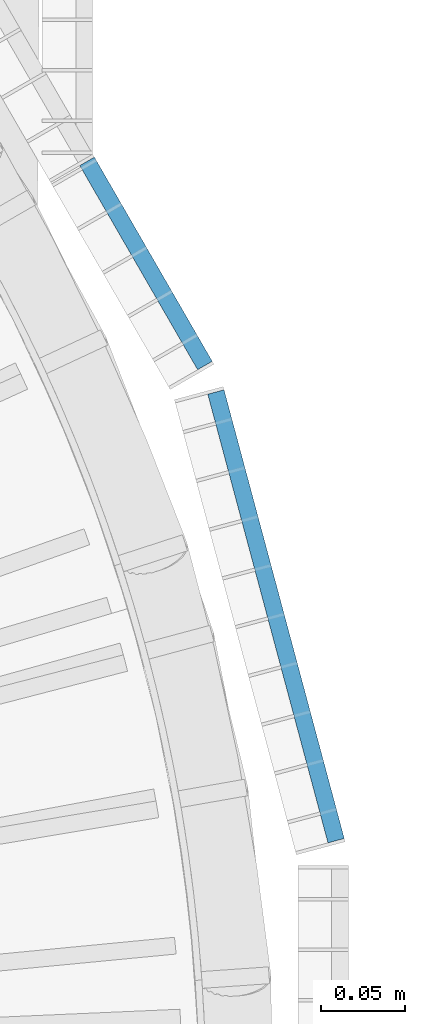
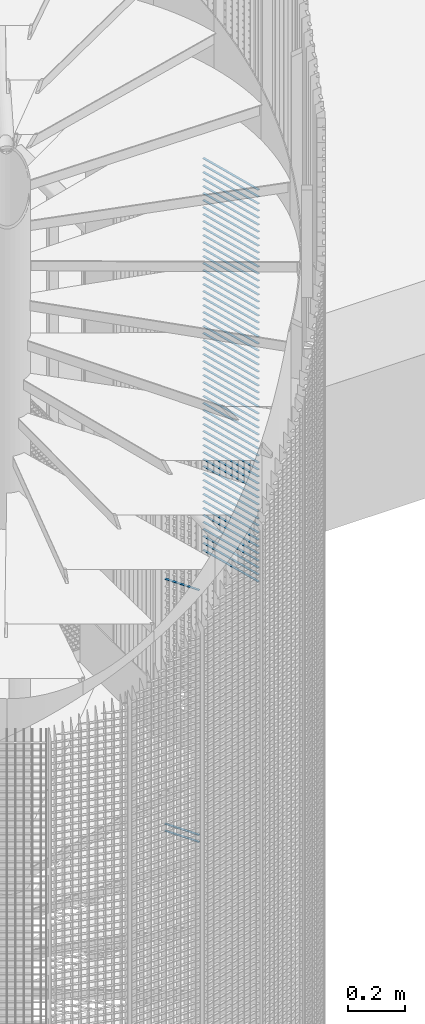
# One storey, part 282 of 1148: 60 beams, 2 elements without a shape of their own.
"""IFC2X3 building model written with IfcOpenShell, lengths in millimetres."""

from ifc_helpers import new_model, si_unit, frame, origin_with_axes, origin_2d_with_axis, place, context, subcontext, project, spatial, rectangle, extrude, material, type_object, element, aggregate, save


model = new_model("IFC2X3")

# Units and contexts
model_context = context("Model", 3, precision=1e-05, world=origin_with_axes())
body_context = subcontext(model_context, "Body", "Model", "MODEL_VIEW")
ifc_project = project(units=[si_unit("LENGTHUNIT", "METRE", prefix="MILLI"), si_unit("AREAUNIT", "SQUARE_METRE"), si_unit("VOLUMEUNIT", "CUBIC_METRE"), si_unit("MASSUNIT", "GRAM", prefix="KILO"), si_unit("TIMEUNIT", "SECOND"), si_unit("PLANEANGLEUNIT", "RADIAN"), si_unit("SOLIDANGLEUNIT", "STERADIAN"), si_unit("THERMODYNAMICTEMPERATUREUNIT", "DEGREE_CELSIUS"), si_unit("LUMINOUSINTENSITYUNIT", "LUMEN")], contexts=[model_context])

# Site, building, storey
site_placement = place(None, origin_with_axes())
site = spatial("IfcSite", under=ifc_project, at=site_placement, Name="Undefined", CompositionType="ELEMENT")
building_placement = place(site_placement, origin_with_axes())
building = spatial("IfcBuilding", under=site, at=building_placement, Name="Undefined", CompositionType="ELEMENT")
storey_placement = place(building_placement, origin_with_axes())
storey = spatial("IfcBuildingStorey", under=building, at=storey_placement, Name="Undefined", CompositionType="ELEMENT", Elevation=0.0)

# Assembly, beams
assembly_1_placement = place(storey_placement, origin_with_axes())
assembly_1 = element("IfcElementAssembly", 1, at=assembly_1_placement, inside=storey, Name="BORDURE", AssemblyPlace="NOTDEFINED", PredefinedType="NOTDEFINED")
ifc_material = material(Name="STEEL/S235JR")
beam_type = type_object("IfcBeamType", Name="PL2*10", PredefinedType="NOTDEFINED")
beam_1_placement = place(assembly_1_placement, frame((1033.2999428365, 437.231999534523, 6060.0), z_axis=(0.866030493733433, 0.499991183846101, 0.0), x_axis=(-0.499991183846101, 0.866030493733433, 0.0)))
beam_1 = element("IfcBeam", 2, at=beam_1_placement, type_object=beam_type, material=ifc_material, Name="ENTRETOISE", context=body_context, shape_type="SweptSolid", body=[
    extrude(rectangle(XDim=2.0, YDim=10.0, at=origin_2d_with_axis()), frame((140.102470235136, 0.0, 0.0), z_axis=(-1.0, 0.0, 0.0), x_axis=(0.0, -1.0, 0.0)), (0.0, 0.0, 1.0), 140.1),
])
beam_2_placement = place(assembly_1_placement, frame((1033.29994283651, 437.23199953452, 7110.0), z_axis=(0.866030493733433, 0.499991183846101, 0.0), x_axis=(-0.499991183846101, 0.866030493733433, 0.0)))
beam_2 = element("IfcBeam", 3, at=beam_2_placement, type_object=beam_type, material=ifc_material, Name="ENTRETOISE", context=body_context, shape_type="SweptSolid", body=[
    extrude(rectangle(XDim=2.0, YDim=10.0, at=origin_2d_with_axis()), frame((140.102470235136, 0.0, 0.0), z_axis=(-1.0, 0.0, 0.0), x_axis=(0.0, -1.0, 0.0)), (0.0, 0.0, 1.0), 140.1),
])
beam_3_placement = place(assembly_1_placement, frame((1033.2999428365, 437.231999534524, 6030.0), z_axis=(0.866030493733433, 0.499991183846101, 0.0), x_axis=(-0.499991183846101, 0.866030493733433, 0.0)))
beam_3 = element("IfcBeam", 4, at=beam_3_placement, type_object=beam_type, material=ifc_material, Name="ENTRETOISE", context=body_context, shape_type="SweptSolid", body=[
    extrude(rectangle(XDim=2.0, YDim=10.0, at=origin_2d_with_axis()), frame((140.102470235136, 0.0, 0.0), z_axis=(-1.0, 0.0, 0.0), x_axis=(0.0, -1.0, 0.0)), (0.0, 0.0, 1.0), 140.1),
])
aggregate(assembly_1, [beam_1, beam_2, beam_3])

assembly_2_placement = place(storey_placement, origin_with_axes())
assembly_2 = element("IfcElementAssembly", 5, at=assembly_2_placement, inside=storey, Name="BORDURE", AssemblyPlace="NOTDEFINED", PredefinedType="NOTDEFINED")
beam_4_placement = place(assembly_2_placement, frame((1111.25508286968, 154.895926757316, 8970.0), z_axis=(0.965925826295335, 0.258819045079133, 0.0), x_axis=(-0.258819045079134, 0.965925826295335, 0.0)))
beam_4 = element("IfcBeam", 6, at=beam_4_placement, type_object=beam_type, material=ifc_material, Name="ENTRETOISE", context=body_context, shape_type="SweptSolid", body=[
    extrude(rectangle(XDim=2.0, YDim=10.0, at=origin_2d_with_axis()), frame((275.999999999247, 9.09494701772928e-13, 1.53210777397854e-14), z_axis=(-1.0, 0.0, 0.0), x_axis=(0.0, -1.0, 0.0)), (0.0, 0.0, 1.0), 276.0),
])
beam_5_placement = place(assembly_2_placement, frame((1111.25508286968, 154.895926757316, 8940.0), z_axis=(0.965925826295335, 0.258819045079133, 0.0), x_axis=(-0.258819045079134, 0.965925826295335, 0.0)))
beam_5 = element("IfcBeam", 7, at=beam_5_placement, type_object=beam_type, material=ifc_material, Name="ENTRETOISE", context=body_context, shape_type="SweptSolid", body=[
    extrude(rectangle(XDim=2.0, YDim=10.0, at=origin_2d_with_axis()), frame((275.999999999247, 9.09494701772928e-13, 1.53210777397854e-14), z_axis=(-1.0, 0.0, 0.0), x_axis=(0.0, -1.0, 0.0)), (0.0, 0.0, 1.0), 276.0),
])
beam_6_placement = place(assembly_2_placement, frame((1111.25508286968, 154.895926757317, 8910.0), z_axis=(0.965925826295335, 0.258819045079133, 0.0), x_axis=(-0.258819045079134, 0.965925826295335, 0.0)))
beam_6 = element("IfcBeam", 8, at=beam_6_placement, type_object=beam_type, material=ifc_material, Name="ENTRETOISE", context=body_context, shape_type="SweptSolid", body=[
    extrude(rectangle(XDim=2.0, YDim=10.0, at=origin_2d_with_axis()), frame((275.999999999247, 9.09494701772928e-13, 1.53210777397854e-14), z_axis=(-1.0, 0.0, 0.0), x_axis=(0.0, -1.0, 0.0)), (0.0, 0.0, 1.0), 276.0),
])
beam_7_placement = place(assembly_2_placement, frame((1111.25508286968, 154.895926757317, 8880.0), z_axis=(0.965925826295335, 0.258819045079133, 0.0), x_axis=(-0.258819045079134, 0.965925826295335, 0.0)))
beam_7 = element("IfcBeam", 9, at=beam_7_placement, type_object=beam_type, material=ifc_material, Name="ENTRETOISE", context=body_context, shape_type="SweptSolid", body=[
    extrude(rectangle(XDim=2.0, YDim=10.0, at=origin_2d_with_axis()), frame((275.999999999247, 9.09494701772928e-13, 1.53210777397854e-14), z_axis=(-1.0, 0.0, 0.0), x_axis=(0.0, -1.0, 0.0)), (0.0, 0.0, 1.0), 276.0),
])
beam_8_placement = place(assembly_2_placement, frame((1111.25508286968, 154.895926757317, 8850.0), z_axis=(0.965925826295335, 0.258819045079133, 0.0), x_axis=(-0.258819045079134, 0.965925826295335, 0.0)))
beam_8 = element("IfcBeam", 10, at=beam_8_placement, type_object=beam_type, material=ifc_material, Name="ENTRETOISE", context=body_context, shape_type="SweptSolid", body=[
    extrude(rectangle(XDim=2.0, YDim=10.0, at=origin_2d_with_axis()), frame((275.999999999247, 9.09494701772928e-13, 1.53210777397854e-14), z_axis=(-1.0, 0.0, 0.0), x_axis=(0.0, -1.0, 0.0)), (0.0, 0.0, 1.0), 276.0),
])
beam_9_placement = place(assembly_2_placement, frame((1111.25508286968, 154.895926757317, 8820.0), z_axis=(0.965925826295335, 0.258819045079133, 0.0), x_axis=(-0.258819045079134, 0.965925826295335, 0.0)))
beam_9 = element("IfcBeam", 11, at=beam_9_placement, type_object=beam_type, material=ifc_material, Name="ENTRETOISE", context=body_context, shape_type="SweptSolid", body=[
    extrude(rectangle(XDim=2.0, YDim=10.0, at=origin_2d_with_axis()), frame((275.999999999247, 9.09494701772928e-13, 1.53210777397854e-14), z_axis=(-1.0, 0.0, 0.0), x_axis=(0.0, -1.0, 0.0)), (0.0, 0.0, 1.0), 276.0),
])
beam_10_placement = place(assembly_2_placement, frame((1111.25508286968, 154.895926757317, 8790.0), z_axis=(0.965925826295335, 0.258819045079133, 0.0), x_axis=(-0.258819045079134, 0.965925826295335, 0.0)))
beam_10 = element("IfcBeam", 12, at=beam_10_placement, type_object=beam_type, material=ifc_material, Name="ENTRETOISE", context=body_context, shape_type="SweptSolid", body=[
    extrude(rectangle(XDim=2.0, YDim=10.0, at=origin_2d_with_axis()), frame((275.999999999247, 9.09494701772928e-13, 1.53210777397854e-14), z_axis=(-1.0, 0.0, 0.0), x_axis=(0.0, -1.0, 0.0)), (0.0, 0.0, 1.0), 276.0),
])
beam_11_placement = place(assembly_2_placement, frame((1111.25508286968, 154.895926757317, 8760.0), z_axis=(0.965925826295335, 0.258819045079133, 0.0), x_axis=(-0.258819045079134, 0.965925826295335, 0.0)))
beam_11 = element("IfcBeam", 13, at=beam_11_placement, type_object=beam_type, material=ifc_material, Name="ENTRETOISE", context=body_context, shape_type="SweptSolid", body=[
    extrude(rectangle(XDim=2.0, YDim=10.0, at=origin_2d_with_axis()), frame((275.999999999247, 9.09494701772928e-13, 1.53210777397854e-14), z_axis=(-1.0, 0.0, 0.0), x_axis=(0.0, -1.0, 0.0)), (0.0, 0.0, 1.0), 276.0),
])
beam_12_placement = place(assembly_2_placement, frame((1111.25508286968, 154.895926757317, 8730.0), z_axis=(0.965925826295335, 0.258819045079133, 0.0), x_axis=(-0.258819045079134, 0.965925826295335, 0.0)))
beam_12 = element("IfcBeam", 14, at=beam_12_placement, type_object=beam_type, material=ifc_material, Name="ENTRETOISE", context=body_context, shape_type="SweptSolid", body=[
    extrude(rectangle(XDim=2.0, YDim=10.0, at=origin_2d_with_axis()), frame((275.999999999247, 9.09494701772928e-13, 1.53210777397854e-14), z_axis=(-1.0, 0.0, 0.0), x_axis=(0.0, -1.0, 0.0)), (0.0, 0.0, 1.0), 276.0),
])
beam_13_placement = place(assembly_2_placement, frame((1111.25508286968, 154.895926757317, 8700.0), z_axis=(0.965925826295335, 0.258819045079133, 0.0), x_axis=(-0.258819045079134, 0.965925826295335, 0.0)))
beam_13 = element("IfcBeam", 15, at=beam_13_placement, type_object=beam_type, material=ifc_material, Name="ENTRETOISE", context=body_context, shape_type="SweptSolid", body=[
    extrude(rectangle(XDim=2.0, YDim=10.0, at=origin_2d_with_axis()), frame((275.999999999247, 9.09494701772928e-13, 1.53210777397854e-14), z_axis=(-1.0, 0.0, 0.0), x_axis=(0.0, -1.0, 0.0)), (0.0, 0.0, 1.0), 276.0),
])
beam_14_placement = place(assembly_2_placement, frame((1111.25508286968, 154.895926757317, 8670.0), z_axis=(0.965925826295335, 0.258819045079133, 0.0), x_axis=(-0.258819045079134, 0.965925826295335, 0.0)))
beam_14 = element("IfcBeam", 16, at=beam_14_placement, type_object=beam_type, material=ifc_material, Name="ENTRETOISE", context=body_context, shape_type="SweptSolid", body=[
    extrude(rectangle(XDim=2.0, YDim=10.0, at=origin_2d_with_axis()), frame((275.999999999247, 9.09494701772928e-13, 1.53210777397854e-14), z_axis=(-1.0, 0.0, 0.0), x_axis=(0.0, -1.0, 0.0)), (0.0, 0.0, 1.0), 276.0),
])
beam_15_placement = place(assembly_2_placement, frame((1111.25508286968, 154.895926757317, 8640.0), z_axis=(0.965925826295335, 0.258819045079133, 0.0), x_axis=(-0.258819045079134, 0.965925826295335, 0.0)))
beam_15 = element("IfcBeam", 17, at=beam_15_placement, type_object=beam_type, material=ifc_material, Name="ENTRETOISE", context=body_context, shape_type="SweptSolid", body=[
    extrude(rectangle(XDim=2.0, YDim=10.0, at=origin_2d_with_axis()), frame((275.999999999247, 9.09494701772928e-13, 1.53210777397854e-14), z_axis=(-1.0, 0.0, 0.0), x_axis=(0.0, -1.0, 0.0)), (0.0, 0.0, 1.0), 276.0),
])
beam_16_placement = place(assembly_2_placement, frame((1111.25508286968, 154.895926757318, 8610.0), z_axis=(0.965925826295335, 0.258819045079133, 0.0), x_axis=(-0.258819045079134, 0.965925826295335, 0.0)))
beam_16 = element("IfcBeam", 18, at=beam_16_placement, type_object=beam_type, material=ifc_material, Name="ENTRETOISE", context=body_context, shape_type="SweptSolid", body=[
    extrude(rectangle(XDim=2.0, YDim=10.0, at=origin_2d_with_axis()), frame((275.999999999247, 9.09494701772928e-13, 1.53210777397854e-14), z_axis=(-1.0, 0.0, 0.0), x_axis=(0.0, -1.0, 0.0)), (0.0, 0.0, 1.0), 276.0),
])
beam_17_placement = place(assembly_2_placement, frame((1111.25508286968, 154.895926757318, 8580.0), z_axis=(0.965925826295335, 0.258819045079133, 0.0), x_axis=(-0.258819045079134, 0.965925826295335, 0.0)))
beam_17 = element("IfcBeam", 19, at=beam_17_placement, type_object=beam_type, material=ifc_material, Name="ENTRETOISE", context=body_context, shape_type="SweptSolid", body=[
    extrude(rectangle(XDim=2.0, YDim=10.0, at=origin_2d_with_axis()), frame((275.999999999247, 9.09494701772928e-13, 1.53210777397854e-14), z_axis=(-1.0, 0.0, 0.0), x_axis=(0.0, -1.0, 0.0)), (0.0, 0.0, 1.0), 276.0),
])
beam_18_placement = place(assembly_2_placement, frame((1111.25508286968, 154.895926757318, 8550.0), z_axis=(0.965925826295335, 0.258819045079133, 0.0), x_axis=(-0.258819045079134, 0.965925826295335, 0.0)))
beam_18 = element("IfcBeam", 20, at=beam_18_placement, type_object=beam_type, material=ifc_material, Name="ENTRETOISE", context=body_context, shape_type="SweptSolid", body=[
    extrude(rectangle(XDim=2.0, YDim=10.0, at=origin_2d_with_axis()), frame((275.999999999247, 9.09494701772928e-13, 1.53210777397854e-14), z_axis=(-1.0, 0.0, 0.0), x_axis=(0.0, -1.0, 0.0)), (0.0, 0.0, 1.0), 276.0),
])
beam_19_placement = place(assembly_2_placement, frame((1111.25508286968, 154.895926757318, 8520.0), z_axis=(0.965925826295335, 0.258819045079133, 0.0), x_axis=(-0.258819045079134, 0.965925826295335, 0.0)))
beam_19 = element("IfcBeam", 21, at=beam_19_placement, type_object=beam_type, material=ifc_material, Name="ENTRETOISE", context=body_context, shape_type="SweptSolid", body=[
    extrude(rectangle(XDim=2.0, YDim=10.0, at=origin_2d_with_axis()), frame((275.999999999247, 9.09494701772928e-13, 1.53210777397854e-14), z_axis=(-1.0, 0.0, 0.0), x_axis=(0.0, -1.0, 0.0)), (0.0, 0.0, 1.0), 276.0),
])
beam_20_placement = place(assembly_2_placement, frame((1111.25508286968, 154.895926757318, 8490.0), z_axis=(0.965925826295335, 0.258819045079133, 0.0), x_axis=(-0.258819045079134, 0.965925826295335, 0.0)))
beam_20 = element("IfcBeam", 22, at=beam_20_placement, type_object=beam_type, material=ifc_material, Name="ENTRETOISE", context=body_context, shape_type="SweptSolid", body=[
    extrude(rectangle(XDim=2.0, YDim=10.0, at=origin_2d_with_axis()), frame((275.999999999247, 9.09494701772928e-13, 1.53210777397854e-14), z_axis=(-1.0, 0.0, 0.0), x_axis=(0.0, -1.0, 0.0)), (0.0, 0.0, 1.0), 276.0),
])
beam_21_placement = place(assembly_2_placement, frame((1111.25508286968, 154.895926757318, 8460.0), z_axis=(0.965925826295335, 0.258819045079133, 0.0), x_axis=(-0.258819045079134, 0.965925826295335, 0.0)))
beam_21 = element("IfcBeam", 23, at=beam_21_placement, type_object=beam_type, material=ifc_material, Name="ENTRETOISE", context=body_context, shape_type="SweptSolid", body=[
    extrude(rectangle(XDim=2.0, YDim=10.0, at=origin_2d_with_axis()), frame((275.999999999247, 9.09494701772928e-13, 1.53210777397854e-14), z_axis=(-1.0, 0.0, 0.0), x_axis=(0.0, -1.0, 0.0)), (0.0, 0.0, 1.0), 276.0),
])
beam_22_placement = place(assembly_2_placement, frame((1111.25508286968, 154.895926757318, 8430.0), z_axis=(0.965925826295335, 0.258819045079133, 0.0), x_axis=(-0.258819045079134, 0.965925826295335, 0.0)))
beam_22 = element("IfcBeam", 24, at=beam_22_placement, type_object=beam_type, material=ifc_material, Name="ENTRETOISE", context=body_context, shape_type="SweptSolid", body=[
    extrude(rectangle(XDim=2.0, YDim=10.0, at=origin_2d_with_axis()), frame((275.999999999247, 9.09494701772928e-13, 1.53210777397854e-14), z_axis=(-1.0, 0.0, 0.0), x_axis=(0.0, -1.0, 0.0)), (0.0, 0.0, 1.0), 276.0),
])
beam_23_placement = place(assembly_2_placement, frame((1111.25508286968, 154.895926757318, 8400.0), z_axis=(0.965925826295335, 0.258819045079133, 0.0), x_axis=(-0.258819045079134, 0.965925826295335, 0.0)))
beam_23 = element("IfcBeam", 25, at=beam_23_placement, type_object=beam_type, material=ifc_material, Name="ENTRETOISE", context=body_context, shape_type="SweptSolid", body=[
    extrude(rectangle(XDim=2.0, YDim=10.0, at=origin_2d_with_axis()), frame((275.999999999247, 9.09494701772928e-13, 1.53210777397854e-14), z_axis=(-1.0, 0.0, 0.0), x_axis=(0.0, -1.0, 0.0)), (0.0, 0.0, 1.0), 276.0),
])
beam_24_placement = place(assembly_2_placement, frame((1111.25508286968, 154.895926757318, 8370.0), z_axis=(0.965925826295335, 0.258819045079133, 0.0), x_axis=(-0.258819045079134, 0.965925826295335, 0.0)))
beam_24 = element("IfcBeam", 26, at=beam_24_placement, type_object=beam_type, material=ifc_material, Name="ENTRETOISE", context=body_context, shape_type="SweptSolid", body=[
    extrude(rectangle(XDim=2.0, YDim=10.0, at=origin_2d_with_axis()), frame((275.999999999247, 9.09494701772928e-13, 1.53210777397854e-14), z_axis=(-1.0, 0.0, 0.0), x_axis=(0.0, -1.0, 0.0)), (0.0, 0.0, 1.0), 276.0),
])
beam_25_placement = place(assembly_2_placement, frame((1111.25508286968, 154.895926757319, 8340.0), z_axis=(0.965925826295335, 0.258819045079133, 0.0), x_axis=(-0.258819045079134, 0.965925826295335, 0.0)))
beam_25 = element("IfcBeam", 27, at=beam_25_placement, type_object=beam_type, material=ifc_material, Name="ENTRETOISE", context=body_context, shape_type="SweptSolid", body=[
    extrude(rectangle(XDim=2.0, YDim=10.0, at=origin_2d_with_axis()), frame((275.999999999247, 9.09494701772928e-13, 1.53210777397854e-14), z_axis=(-1.0, 0.0, 0.0), x_axis=(0.0, -1.0, 0.0)), (0.0, 0.0, 1.0), 276.0),
])
beam_26_placement = place(assembly_2_placement, frame((1111.25508286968, 154.895926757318, 8310.0), z_axis=(0.965925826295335, 0.258819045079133, 0.0), x_axis=(-0.258819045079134, 0.965925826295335, 0.0)))
beam_26 = element("IfcBeam", 28, at=beam_26_placement, type_object=beam_type, material=ifc_material, Name="ENTRETOISE", context=body_context, shape_type="SweptSolid", body=[
    extrude(rectangle(XDim=2.0, YDim=10.0, at=origin_2d_with_axis()), frame((275.999999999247, 9.09494701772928e-13, 1.53210777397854e-14), z_axis=(-1.0, 0.0, 0.0), x_axis=(0.0, -1.0, 0.0)), (0.0, 0.0, 1.0), 276.0),
])
beam_27_placement = place(assembly_2_placement, frame((1111.25508286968, 154.895926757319, 8280.0), z_axis=(0.965925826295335, 0.258819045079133, 0.0), x_axis=(-0.258819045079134, 0.965925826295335, 0.0)))
beam_27 = element("IfcBeam", 29, at=beam_27_placement, type_object=beam_type, material=ifc_material, Name="ENTRETOISE", context=body_context, shape_type="SweptSolid", body=[
    extrude(rectangle(XDim=2.0, YDim=10.0, at=origin_2d_with_axis()), frame((275.999999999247, 9.09494701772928e-13, 1.53210777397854e-14), z_axis=(-1.0, 0.0, 0.0), x_axis=(0.0, -1.0, 0.0)), (0.0, 0.0, 1.0), 276.0),
])
beam_28_placement = place(assembly_2_placement, frame((1111.25508286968, 154.895926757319, 8250.0), z_axis=(0.965925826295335, 0.258819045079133, 0.0), x_axis=(-0.258819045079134, 0.965925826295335, 0.0)))
beam_28 = element("IfcBeam", 30, at=beam_28_placement, type_object=beam_type, material=ifc_material, Name="ENTRETOISE", context=body_context, shape_type="SweptSolid", body=[
    extrude(rectangle(XDim=2.0, YDim=10.0, at=origin_2d_with_axis()), frame((275.999999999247, 9.09494701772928e-13, 1.53210777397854e-14), z_axis=(-1.0, 0.0, 0.0), x_axis=(0.0, -1.0, 0.0)), (0.0, 0.0, 1.0), 276.0),
])
beam_29_placement = place(assembly_2_placement, frame((1111.25508286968, 154.895926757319, 8220.0), z_axis=(0.965925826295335, 0.258819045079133, 0.0), x_axis=(-0.258819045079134, 0.965925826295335, 0.0)))
beam_29 = element("IfcBeam", 31, at=beam_29_placement, type_object=beam_type, material=ifc_material, Name="ENTRETOISE", context=body_context, shape_type="SweptSolid", body=[
    extrude(rectangle(XDim=2.0, YDim=10.0, at=origin_2d_with_axis()), frame((275.999999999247, 9.09494701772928e-13, 1.53210777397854e-14), z_axis=(-1.0, 0.0, 0.0), x_axis=(0.0, -1.0, 0.0)), (0.0, 0.0, 1.0), 276.0),
])
beam_30_placement = place(assembly_2_placement, frame((1111.25508286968, 154.895926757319, 8190.0), z_axis=(0.965925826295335, 0.258819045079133, 0.0), x_axis=(-0.258819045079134, 0.965925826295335, 0.0)))
beam_30 = element("IfcBeam", 32, at=beam_30_placement, type_object=beam_type, material=ifc_material, Name="ENTRETOISE", context=body_context, shape_type="SweptSolid", body=[
    extrude(rectangle(XDim=2.0, YDim=10.0, at=origin_2d_with_axis()), frame((275.999999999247, 9.09494701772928e-13, 1.53210777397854e-14), z_axis=(-1.0, 0.0, 0.0), x_axis=(0.0, -1.0, 0.0)), (0.0, 0.0, 1.0), 276.0),
])
beam_31_placement = place(assembly_2_placement, frame((1111.25508286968, 154.895926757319, 8160.0), z_axis=(0.965925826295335, 0.258819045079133, 0.0), x_axis=(-0.258819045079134, 0.965925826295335, 0.0)))
beam_31 = element("IfcBeam", 33, at=beam_31_placement, type_object=beam_type, material=ifc_material, Name="ENTRETOISE", context=body_context, shape_type="SweptSolid", body=[
    extrude(rectangle(XDim=2.0, YDim=10.0, at=origin_2d_with_axis()), frame((275.999999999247, 9.09494701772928e-13, 1.53210777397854e-14), z_axis=(-1.0, 0.0, 0.0), x_axis=(0.0, -1.0, 0.0)), (0.0, 0.0, 1.0), 276.0),
])
beam_32_placement = place(assembly_2_placement, frame((1111.25508286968, 154.895926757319, 8130.0), z_axis=(0.965925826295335, 0.258819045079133, 0.0), x_axis=(-0.258819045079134, 0.965925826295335, 0.0)))
beam_32 = element("IfcBeam", 34, at=beam_32_placement, type_object=beam_type, material=ifc_material, Name="ENTRETOISE", context=body_context, shape_type="SweptSolid", body=[
    extrude(rectangle(XDim=2.0, YDim=10.0, at=origin_2d_with_axis()), frame((275.999999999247, 9.09494701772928e-13, 1.53210777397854e-14), z_axis=(-1.0, 0.0, 0.0), x_axis=(0.0, -1.0, 0.0)), (0.0, 0.0, 1.0), 276.0),
])
beam_33_placement = place(assembly_2_placement, frame((1111.25508286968, 154.895926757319, 8100.0), z_axis=(0.965925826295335, 0.258819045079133, 0.0), x_axis=(-0.258819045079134, 0.965925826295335, 0.0)))
beam_33 = element("IfcBeam", 35, at=beam_33_placement, type_object=beam_type, material=ifc_material, Name="ENTRETOISE", context=body_context, shape_type="SweptSolid", body=[
    extrude(rectangle(XDim=2.0, YDim=10.0, at=origin_2d_with_axis()), frame((275.999999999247, 9.09494701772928e-13, 1.53210777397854e-14), z_axis=(-1.0, 0.0, 0.0), x_axis=(0.0, -1.0, 0.0)), (0.0, 0.0, 1.0), 276.0),
])
beam_34_placement = place(assembly_2_placement, frame((1111.25508286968, 154.895926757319, 8070.0), z_axis=(0.965925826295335, 0.258819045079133, 0.0), x_axis=(-0.258819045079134, 0.965925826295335, 0.0)))
beam_34 = element("IfcBeam", 36, at=beam_34_placement, type_object=beam_type, material=ifc_material, Name="ENTRETOISE", context=body_context, shape_type="SweptSolid", body=[
    extrude(rectangle(XDim=2.0, YDim=10.0, at=origin_2d_with_axis()), frame((275.999999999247, 9.09494701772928e-13, 1.53210777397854e-14), z_axis=(-1.0, 0.0, 0.0), x_axis=(0.0, -1.0, 0.0)), (0.0, 0.0, 1.0), 276.0),
])
beam_35_placement = place(assembly_2_placement, frame((1111.25508286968, 154.89592675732, 8040.0), z_axis=(0.965925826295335, 0.258819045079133, 0.0), x_axis=(-0.258819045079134, 0.965925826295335, 0.0)))
beam_35 = element("IfcBeam", 37, at=beam_35_placement, type_object=beam_type, material=ifc_material, Name="ENTRETOISE", context=body_context, shape_type="SweptSolid", body=[
    extrude(rectangle(XDim=2.0, YDim=10.0, at=origin_2d_with_axis()), frame((275.999999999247, 9.09494701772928e-13, 1.53210777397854e-14), z_axis=(-1.0, 0.0, 0.0), x_axis=(0.0, -1.0, 0.0)), (0.0, 0.0, 1.0), 276.0),
])
beam_36_placement = place(assembly_2_placement, frame((1111.25508286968, 154.89592675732, 8010.0), z_axis=(0.965925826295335, 0.258819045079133, 0.0), x_axis=(-0.258819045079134, 0.965925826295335, 0.0)))
beam_36 = element("IfcBeam", 38, at=beam_36_placement, type_object=beam_type, material=ifc_material, Name="ENTRETOISE", context=body_context, shape_type="SweptSolid", body=[
    extrude(rectangle(XDim=2.0, YDim=10.0, at=origin_2d_with_axis()), frame((275.999999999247, 9.09494701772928e-13, 1.53210777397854e-14), z_axis=(-1.0, 0.0, 0.0), x_axis=(0.0, -1.0, 0.0)), (0.0, 0.0, 1.0), 276.0),
])
beam_37_placement = place(assembly_2_placement, frame((1111.25508286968, 154.89592675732, 7980.0), z_axis=(0.965925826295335, 0.258819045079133, 0.0), x_axis=(-0.258819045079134, 0.965925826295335, 0.0)))
beam_37 = element("IfcBeam", 39, at=beam_37_placement, type_object=beam_type, material=ifc_material, Name="ENTRETOISE", context=body_context, shape_type="SweptSolid", body=[
    extrude(rectangle(XDim=2.0, YDim=10.0, at=origin_2d_with_axis()), frame((275.999999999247, 9.09494701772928e-13, 1.53210777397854e-14), z_axis=(-1.0, 0.0, 0.0), x_axis=(0.0, -1.0, 0.0)), (0.0, 0.0, 1.0), 276.0),
])
beam_38_placement = place(assembly_2_placement, frame((1111.25508286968, 154.89592675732, 7950.0), z_axis=(0.965925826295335, 0.258819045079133, 0.0), x_axis=(-0.258819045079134, 0.965925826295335, 0.0)))
beam_38 = element("IfcBeam", 40, at=beam_38_placement, type_object=beam_type, material=ifc_material, Name="ENTRETOISE", context=body_context, shape_type="SweptSolid", body=[
    extrude(rectangle(XDim=2.0, YDim=10.0, at=origin_2d_with_axis()), frame((275.999999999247, 9.09494701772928e-13, 1.53210777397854e-14), z_axis=(-1.0, 0.0, 0.0), x_axis=(0.0, -1.0, 0.0)), (0.0, 0.0, 1.0), 276.0),
])
beam_39_placement = place(assembly_2_placement, frame((1111.25508286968, 154.89592675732, 7920.0), z_axis=(0.965925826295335, 0.258819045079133, 0.0), x_axis=(-0.258819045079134, 0.965925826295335, 0.0)))
beam_39 = element("IfcBeam", 41, at=beam_39_placement, type_object=beam_type, material=ifc_material, Name="ENTRETOISE", context=body_context, shape_type="SweptSolid", body=[
    extrude(rectangle(XDim=2.0, YDim=10.0, at=origin_2d_with_axis()), frame((275.999999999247, 9.09494701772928e-13, 1.53210777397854e-14), z_axis=(-1.0, 0.0, 0.0), x_axis=(0.0, -1.0, 0.0)), (0.0, 0.0, 1.0), 276.0),
])
beam_40_placement = place(assembly_2_placement, frame((1111.25508286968, 154.89592675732, 7890.0), z_axis=(0.965925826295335, 0.258819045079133, 0.0), x_axis=(-0.258819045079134, 0.965925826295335, 0.0)))
beam_40 = element("IfcBeam", 42, at=beam_40_placement, type_object=beam_type, material=ifc_material, Name="ENTRETOISE", context=body_context, shape_type="SweptSolid", body=[
    extrude(rectangle(XDim=2.0, YDim=10.0, at=origin_2d_with_axis()), frame((275.999999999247, 9.09494701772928e-13, 1.53210777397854e-14), z_axis=(-1.0, 0.0, 0.0), x_axis=(0.0, -1.0, 0.0)), (0.0, 0.0, 1.0), 276.0),
])
beam_41_placement = place(assembly_2_placement, frame((1111.25508286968, 154.89592675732, 7860.0), z_axis=(0.965925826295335, 0.258819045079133, 0.0), x_axis=(-0.258819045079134, 0.965925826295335, 0.0)))
beam_41 = element("IfcBeam", 43, at=beam_41_placement, type_object=beam_type, material=ifc_material, Name="ENTRETOISE", context=body_context, shape_type="SweptSolid", body=[
    extrude(rectangle(XDim=2.0, YDim=10.0, at=origin_2d_with_axis()), frame((275.999999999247, 9.09494701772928e-13, 1.53210777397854e-14), z_axis=(-1.0, 0.0, 0.0), x_axis=(0.0, -1.0, 0.0)), (0.0, 0.0, 1.0), 276.0),
])
beam_42_placement = place(assembly_2_placement, frame((1111.25508286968, 154.89592675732, 7830.0), z_axis=(0.965925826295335, 0.258819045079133, 0.0), x_axis=(-0.258819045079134, 0.965925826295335, 0.0)))
beam_42 = element("IfcBeam", 44, at=beam_42_placement, type_object=beam_type, material=ifc_material, Name="ENTRETOISE", context=body_context, shape_type="SweptSolid", body=[
    extrude(rectangle(XDim=2.0, YDim=10.0, at=origin_2d_with_axis()), frame((275.999999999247, 9.09494701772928e-13, 1.53210777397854e-14), z_axis=(-1.0, 0.0, 0.0), x_axis=(0.0, -1.0, 0.0)), (0.0, 0.0, 1.0), 276.0),
])
beam_43_placement = place(assembly_2_placement, frame((1111.25508286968, 154.89592675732, 7800.0), z_axis=(0.965925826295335, 0.258819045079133, 0.0), x_axis=(-0.258819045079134, 0.965925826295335, 0.0)))
beam_43 = element("IfcBeam", 45, at=beam_43_placement, type_object=beam_type, material=ifc_material, Name="ENTRETOISE", context=body_context, shape_type="SweptSolid", body=[
    extrude(rectangle(XDim=2.0, YDim=10.0, at=origin_2d_with_axis()), frame((275.999999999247, 9.09494701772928e-13, 1.53210777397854e-14), z_axis=(-1.0, 0.0, 0.0), x_axis=(0.0, -1.0, 0.0)), (0.0, 0.0, 1.0), 276.0),
])
beam_44_placement = place(assembly_2_placement, frame((1111.25508286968, 154.89592675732, 7770.0), z_axis=(0.965925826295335, 0.258819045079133, 0.0), x_axis=(-0.258819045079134, 0.965925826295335, 0.0)))
beam_44 = element("IfcBeam", 46, at=beam_44_placement, type_object=beam_type, material=ifc_material, Name="ENTRETOISE", context=body_context, shape_type="SweptSolid", body=[
    extrude(rectangle(XDim=2.0, YDim=10.0, at=origin_2d_with_axis()), frame((275.999999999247, 9.09494701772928e-13, 1.53210777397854e-14), z_axis=(-1.0, 0.0, 0.0), x_axis=(0.0, -1.0, 0.0)), (0.0, 0.0, 1.0), 276.0),
])
beam_45_placement = place(assembly_2_placement, frame((1111.25508286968, 154.89592675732, 7740.0), z_axis=(0.965925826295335, 0.258819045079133, 0.0), x_axis=(-0.258819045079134, 0.965925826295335, 0.0)))
beam_45 = element("IfcBeam", 47, at=beam_45_placement, type_object=beam_type, material=ifc_material, Name="ENTRETOISE", context=body_context, shape_type="SweptSolid", body=[
    extrude(rectangle(XDim=2.0, YDim=10.0, at=origin_2d_with_axis()), frame((275.999999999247, 9.09494701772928e-13, 1.53210777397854e-14), z_axis=(-1.0, 0.0, 0.0), x_axis=(0.0, -1.0, 0.0)), (0.0, 0.0, 1.0), 276.0),
])
beam_46_placement = place(assembly_2_placement, frame((1111.25508286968, 154.895926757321, 7710.0), z_axis=(0.965925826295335, 0.258819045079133, 0.0), x_axis=(-0.258819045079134, 0.965925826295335, 0.0)))
beam_46 = element("IfcBeam", 48, at=beam_46_placement, type_object=beam_type, material=ifc_material, Name="ENTRETOISE", context=body_context, shape_type="SweptSolid", body=[
    extrude(rectangle(XDim=2.0, YDim=10.0, at=origin_2d_with_axis()), frame((275.999999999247, 9.09494701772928e-13, 1.53210777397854e-14), z_axis=(-1.0, 0.0, 0.0), x_axis=(0.0, -1.0, 0.0)), (0.0, 0.0, 1.0), 276.0),
])
beam_47_placement = place(assembly_2_placement, frame((1111.25508286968, 154.895926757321, 7680.0), z_axis=(0.965925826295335, 0.258819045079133, 0.0), x_axis=(-0.258819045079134, 0.965925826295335, 0.0)))
beam_47 = element("IfcBeam", 49, at=beam_47_placement, type_object=beam_type, material=ifc_material, Name="ENTRETOISE", context=body_context, shape_type="SweptSolid", body=[
    extrude(rectangle(XDim=2.0, YDim=10.0, at=origin_2d_with_axis()), frame((275.999999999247, 9.09494701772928e-13, 1.53210777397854e-14), z_axis=(-1.0, 0.0, 0.0), x_axis=(0.0, -1.0, 0.0)), (0.0, 0.0, 1.0), 276.0),
])
beam_48_placement = place(assembly_2_placement, frame((1111.25508286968, 154.895926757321, 7650.0), z_axis=(0.965925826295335, 0.258819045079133, 0.0), x_axis=(-0.258819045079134, 0.965925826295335, 0.0)))
beam_48 = element("IfcBeam", 50, at=beam_48_placement, type_object=beam_type, material=ifc_material, Name="ENTRETOISE", context=body_context, shape_type="SweptSolid", body=[
    extrude(rectangle(XDim=2.0, YDim=10.0, at=origin_2d_with_axis()), frame((275.999999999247, 9.09494701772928e-13, 1.53210777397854e-14), z_axis=(-1.0, 0.0, 0.0), x_axis=(0.0, -1.0, 0.0)), (0.0, 0.0, 1.0), 276.0),
])
beam_49_placement = place(assembly_2_placement, frame((1111.25508286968, 154.895926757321, 7620.0), z_axis=(0.965925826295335, 0.258819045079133, 0.0), x_axis=(-0.258819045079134, 0.965925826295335, 0.0)))
beam_49 = element("IfcBeam", 51, at=beam_49_placement, type_object=beam_type, material=ifc_material, Name="ENTRETOISE", context=body_context, shape_type="SweptSolid", body=[
    extrude(rectangle(XDim=2.0, YDim=10.0, at=origin_2d_with_axis()), frame((275.999999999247, 9.09494701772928e-13, 1.53210777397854e-14), z_axis=(-1.0, 0.0, 0.0), x_axis=(0.0, -1.0, 0.0)), (0.0, 0.0, 1.0), 276.0),
])
beam_50_placement = place(assembly_2_placement, frame((1111.25508286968, 154.895926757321, 7590.0), z_axis=(0.965925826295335, 0.258819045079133, 0.0), x_axis=(-0.258819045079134, 0.965925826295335, 0.0)))
beam_50 = element("IfcBeam", 52, at=beam_50_placement, type_object=beam_type, material=ifc_material, Name="ENTRETOISE", context=body_context, shape_type="SweptSolid", body=[
    extrude(rectangle(XDim=2.0, YDim=10.0, at=origin_2d_with_axis()), frame((275.999999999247, 9.09494701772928e-13, 1.53210777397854e-14), z_axis=(-1.0, 0.0, 0.0), x_axis=(0.0, -1.0, 0.0)), (0.0, 0.0, 1.0), 276.0),
])
beam_51_placement = place(assembly_2_placement, frame((1111.25508286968, 154.895926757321, 7560.0), z_axis=(0.965925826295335, 0.258819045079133, 0.0), x_axis=(-0.258819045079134, 0.965925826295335, 0.0)))
beam_51 = element("IfcBeam", 53, at=beam_51_placement, type_object=beam_type, material=ifc_material, Name="ENTRETOISE", context=body_context, shape_type="SweptSolid", body=[
    extrude(rectangle(XDim=2.0, YDim=10.0, at=origin_2d_with_axis()), frame((275.999999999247, 9.09494701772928e-13, 1.53210777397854e-14), z_axis=(-1.0, 0.0, 0.0), x_axis=(0.0, -1.0, 0.0)), (0.0, 0.0, 1.0), 276.0),
])
beam_52_placement = place(assembly_2_placement, frame((1111.25508286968, 154.895926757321, 7530.0), z_axis=(0.965925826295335, 0.258819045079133, 0.0), x_axis=(-0.258819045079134, 0.965925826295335, 0.0)))
beam_52 = element("IfcBeam", 54, at=beam_52_placement, type_object=beam_type, material=ifc_material, Name="ENTRETOISE", context=body_context, shape_type="SweptSolid", body=[
    extrude(rectangle(XDim=2.0, YDim=10.0, at=origin_2d_with_axis()), frame((275.999999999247, 9.09494701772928e-13, 1.53210777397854e-14), z_axis=(-1.0, 0.0, 0.0), x_axis=(0.0, -1.0, 0.0)), (0.0, 0.0, 1.0), 276.0),
])
beam_53_placement = place(assembly_2_placement, frame((1111.25508286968, 154.895926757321, 7500.0), z_axis=(0.965925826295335, 0.258819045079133, 0.0), x_axis=(-0.258819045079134, 0.965925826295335, 0.0)))
beam_53 = element("IfcBeam", 55, at=beam_53_placement, type_object=beam_type, material=ifc_material, Name="ENTRETOISE", context=body_context, shape_type="SweptSolid", body=[
    extrude(rectangle(XDim=2.0, YDim=10.0, at=origin_2d_with_axis()), frame((275.999999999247, 9.09494701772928e-13, 1.53210777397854e-14), z_axis=(-1.0, 0.0, 0.0), x_axis=(0.0, -1.0, 0.0)), (0.0, 0.0, 1.0), 276.0),
])
beam_54_placement = place(assembly_2_placement, frame((1111.25508286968, 154.895926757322, 7470.0), z_axis=(0.965925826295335, 0.258819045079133, 0.0), x_axis=(-0.258819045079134, 0.965925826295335, 0.0)))
beam_54 = element("IfcBeam", 56, at=beam_54_placement, type_object=beam_type, material=ifc_material, Name="ENTRETOISE", context=body_context, shape_type="SweptSolid", body=[
    extrude(rectangle(XDim=2.0, YDim=10.0, at=origin_2d_with_axis()), frame((275.999999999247, 9.09494701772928e-13, 1.53210777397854e-14), z_axis=(-1.0, 0.0, 0.0), x_axis=(0.0, -1.0, 0.0)), (0.0, 0.0, 1.0), 276.0),
])
beam_55_placement = place(assembly_2_placement, frame((1111.25508286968, 154.895926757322, 7440.0), z_axis=(0.965925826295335, 0.258819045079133, 0.0), x_axis=(-0.258819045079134, 0.965925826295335, 0.0)))
beam_55 = element("IfcBeam", 57, at=beam_55_placement, type_object=beam_type, material=ifc_material, Name="ENTRETOISE", context=body_context, shape_type="SweptSolid", body=[
    extrude(rectangle(XDim=2.0, YDim=10.0, at=origin_2d_with_axis()), frame((275.999999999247, 9.09494701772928e-13, 1.53210777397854e-14), z_axis=(-1.0, 0.0, 0.0), x_axis=(0.0, -1.0, 0.0)), (0.0, 0.0, 1.0), 276.0),
])
beam_56_placement = place(assembly_2_placement, frame((1111.25508286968, 154.895926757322, 7410.0), z_axis=(0.965925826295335, 0.258819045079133, 0.0), x_axis=(-0.258819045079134, 0.965925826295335, 0.0)))
beam_56 = element("IfcBeam", 58, at=beam_56_placement, type_object=beam_type, material=ifc_material, Name="ENTRETOISE", context=body_context, shape_type="SweptSolid", body=[
    extrude(rectangle(XDim=2.0, YDim=10.0, at=origin_2d_with_axis()), frame((275.999999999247, 9.09494701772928e-13, 1.53210777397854e-14), z_axis=(-1.0, 0.0, 0.0), x_axis=(0.0, -1.0, 0.0)), (0.0, 0.0, 1.0), 276.0),
])
beam_57_placement = place(assembly_2_placement, frame((1111.25508286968, 154.895926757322, 7380.0), z_axis=(0.965925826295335, 0.258819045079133, 0.0), x_axis=(-0.258819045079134, 0.965925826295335, 0.0)))
beam_57 = element("IfcBeam", 59, at=beam_57_placement, type_object=beam_type, material=ifc_material, Name="ENTRETOISE", context=body_context, shape_type="SweptSolid", body=[
    extrude(rectangle(XDim=2.0, YDim=10.0, at=origin_2d_with_axis()), frame((275.999999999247, 9.09494701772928e-13, 1.53210777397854e-14), z_axis=(-1.0, 0.0, 0.0), x_axis=(0.0, -1.0, 0.0)), (0.0, 0.0, 1.0), 276.0),
])
beam_58_placement = place(assembly_2_placement, frame((1111.25508286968, 154.895926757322, 7350.0), z_axis=(0.965925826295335, 0.258819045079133, 0.0), x_axis=(-0.258819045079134, 0.965925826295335, 0.0)))
beam_58 = element("IfcBeam", 60, at=beam_58_placement, type_object=beam_type, material=ifc_material, Name="ENTRETOISE", context=body_context, shape_type="SweptSolid", body=[
    extrude(rectangle(XDim=2.0, YDim=10.0, at=origin_2d_with_axis()), frame((275.999999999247, 9.09494701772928e-13, 1.53210777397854e-14), z_axis=(-1.0, 0.0, 0.0), x_axis=(0.0, -1.0, 0.0)), (0.0, 0.0, 1.0), 276.0),
])
beam_59_placement = place(assembly_2_placement, frame((1111.25508286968, 154.895926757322, 7320.0), z_axis=(0.965925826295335, 0.258819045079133, 0.0), x_axis=(-0.258819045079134, 0.965925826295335, 0.0)))
beam_59 = element("IfcBeam", 61, at=beam_59_placement, type_object=beam_type, material=ifc_material, Name="ENTRETOISE", context=body_context, shape_type="SweptSolid", body=[
    extrude(rectangle(XDim=2.0, YDim=10.0, at=origin_2d_with_axis()), frame((275.999999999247, 9.09494701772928e-13, 1.53210777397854e-14), z_axis=(-1.0, 0.0, 0.0), x_axis=(0.0, -1.0, 0.0)), (0.0, 0.0, 1.0), 276.0),
])
beam_60_placement = place(assembly_2_placement, frame((1111.25508286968, 154.895926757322, 7290.0), z_axis=(0.965925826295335, 0.258819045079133, 0.0), x_axis=(-0.258819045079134, 0.965925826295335, 0.0)))
beam_60 = element("IfcBeam", 62, at=beam_60_placement, type_object=beam_type, material=ifc_material, Name="ENTRETOISE", context=body_context, shape_type="SweptSolid", body=[
    extrude(rectangle(XDim=2.0, YDim=10.0, at=origin_2d_with_axis()), frame((275.999999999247, 9.09494701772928e-13, 1.53210777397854e-14), z_axis=(-1.0, 0.0, 0.0), x_axis=(0.0, -1.0, 0.0)), (0.0, 0.0, 1.0), 276.0),
])
aggregate(assembly_2, [beam_4, beam_5, beam_6, beam_7, beam_8, beam_9, beam_10, beam_11, beam_12, beam_13, beam_14, beam_15, beam_16, beam_17, beam_18, beam_19, beam_20, beam_21, beam_22, beam_23, beam_24, beam_25, beam_26, beam_27, beam_28, beam_29, beam_30, beam_31, beam_32, beam_33, beam_34, beam_35, beam_36, beam_37, beam_38, beam_39, beam_40, beam_41, beam_42, beam_43, beam_44, beam_45, beam_46, beam_47, beam_48, beam_49, beam_50, beam_51, beam_52, beam_53, beam_54, beam_55, beam_56, beam_57, beam_58, beam_59, beam_60])

save(model, "model.ifc")
